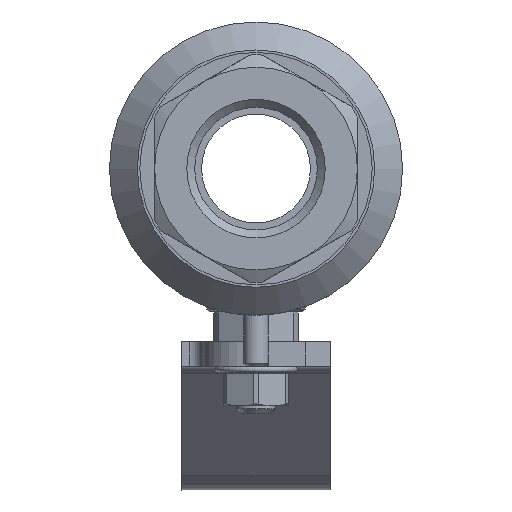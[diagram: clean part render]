
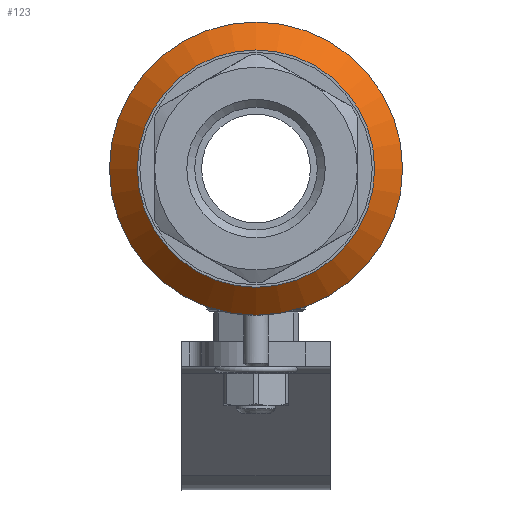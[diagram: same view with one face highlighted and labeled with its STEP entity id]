
A CAD part, left-side view. The second image highlights one B-rep face of the part: STEP entity #123.
In plain terms, the highlighted conical face has half-angle 45 degrees and reference radius 26.825 mm.
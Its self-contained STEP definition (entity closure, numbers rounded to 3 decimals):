
#123=ADVANCED_FACE('',(#1034),#1036,.T.);
#1034=FACE_OUTER_BOUND('',#1035,.T.);
#1035=EDGE_LOOP('',(#2174,#2175,#2176,#2177));
#1036=CONICAL_SURFACE('',#1037,26.825,0.785);
#1037=AXIS2_PLACEMENT_3D('',#1038,#1039,#1040);
#1038=CARTESIAN_POINT('',(-21.175,0.,0.));
#1039=DIRECTION('',(1.,0.,0.));
#1040=DIRECTION('',(0.,1.,0.));
#2174=ORIENTED_EDGE('',*,*,#3220,.T.);
#2175=ORIENTED_EDGE('',*,*,#3185,.T.);
#2176=ORIENTED_EDGE('',*,*,#3220,.F.);
#2177=ORIENTED_EDGE('',*,*,#3221,.F.);
#3185=EDGE_CURVE('',#3548,#3548,#3550,.T.);
#3220=EDGE_CURVE('',#3606,#3548,#3607,.T.);
#3221=EDGE_CURVE('',#3606,#3606,#3608,.T.);
#3548=VERTEX_POINT('',#4730);
#3550=CIRCLE('',#4734,29.65);
#3606=VERTEX_POINT('',#5128);
#3607=LINE('',#5129,#5130);
#3608=CIRCLE('',#5132,24.);
#4730=CARTESIAN_POINT('',(-18.35,-29.65,0.));
#4734=AXIS2_PLACEMENT_3D('',#4735,#4736,#4737);
#4735=CARTESIAN_POINT('',(-18.35,0.,0.));
#4736=DIRECTION('',(-1.,0.,0.));
#4737=DIRECTION('',(0.,-1.,0.));
#5128=CARTESIAN_POINT('',(-24.,-24.,0.));
#5129=CARTESIAN_POINT('',(-24.,-24.,0.));
#5130=VECTOR('',#5131,1.);
#5131=DIRECTION('',(0.707,-0.707,0.));
#5132=AXIS2_PLACEMENT_3D('',#5133,#5134,#5135);
#5133=CARTESIAN_POINT('',(-24.,0.,0.));
#5134=DIRECTION('',(-1.,0.,0.));
#5135=DIRECTION('',(0.,-1.,0.));
